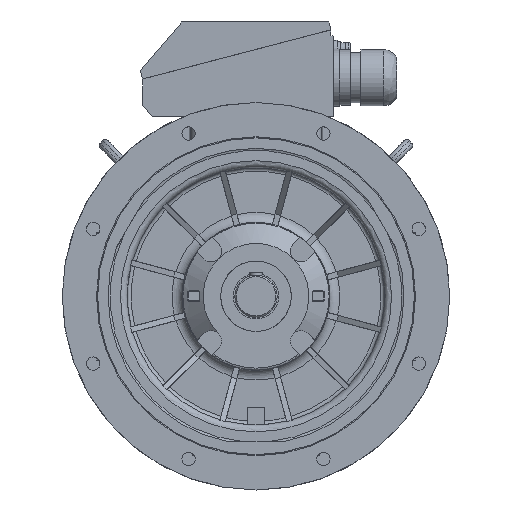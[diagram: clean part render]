
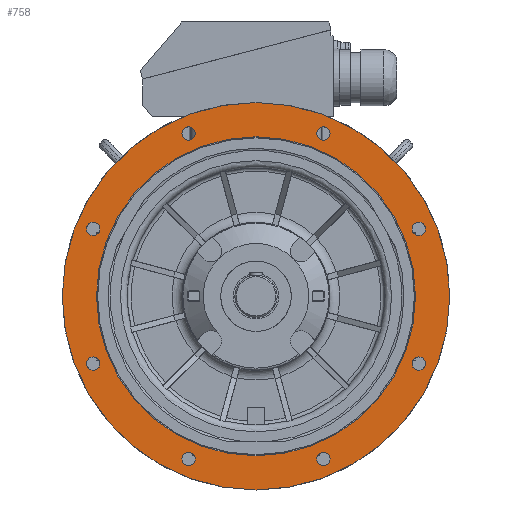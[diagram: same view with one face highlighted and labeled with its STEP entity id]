
A CAD part, front view. The second image highlights one B-rep face of the part: STEP entity #758.
In plain terms, the highlighted planar face has unit normal (0, -1, 0).
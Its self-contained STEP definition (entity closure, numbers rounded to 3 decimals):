
#758 = ADVANCED_FACE( '', ( #2216, #2217, #2218, #2219, #2220, #2221, #2222, #2223, #2224, #2225 ), #2226, .F. );
#2216 = FACE_OUTER_BOUND( '', #3992, .T. );
#2217 = FACE_BOUND( '', #3993, .T. );
#2218 = FACE_BOUND( '', #3994, .T. );
#2219 = FACE_BOUND( '', #3995, .T. );
#2220 = FACE_BOUND( '', #3996, .T. );
#2221 = FACE_BOUND( '', #3997, .T. );
#2222 = FACE_BOUND( '', #3998, .T. );
#2223 = FACE_BOUND( '', #3999, .T. );
#2224 = FACE_BOUND( '', #4000, .T. );
#2225 = FACE_BOUND( '', #4001, .T. );
#2226 = PLANE( '', #4002 );
#3992 = EDGE_LOOP( '', ( #9416 ) );
#3993 = EDGE_LOOP( '', ( #9417 ) );
#3994 = EDGE_LOOP( '', ( #9418 ) );
#3995 = EDGE_LOOP( '', ( #9419 ) );
#3996 = EDGE_LOOP( '', ( #9420 ) );
#3997 = EDGE_LOOP( '', ( #9421 ) );
#3998 = EDGE_LOOP( '', ( #9422 ) );
#3999 = EDGE_LOOP( '', ( #9423 ) );
#4000 = EDGE_LOOP( '', ( #9424 ) );
#4001 = EDGE_LOOP( '', ( #9425 ) );
#4002 = AXIS2_PLACEMENT_3D( '', #9426, #9427, #9428 );
#9416 = ORIENTED_EDGE( '', *, *, #12789, .T. );
#9417 = ORIENTED_EDGE( '', *, *, #12785, .F. );
#9418 = ORIENTED_EDGE( '', *, *, #12786, .F. );
#9419 = ORIENTED_EDGE( '', *, *, #12784, .F. );
#9420 = ORIENTED_EDGE( '', *, *, #12782, .F. );
#9421 = ORIENTED_EDGE( '', *, *, #12790, .F. );
#9422 = ORIENTED_EDGE( '', *, *, #12791, .F. );
#9423 = ORIENTED_EDGE( '', *, *, #12792, .F. );
#9424 = ORIENTED_EDGE( '', *, *, #12793, .F. );
#9425 = ORIENTED_EDGE( '', *, *, #12794, .F. );
#9426 = CARTESIAN_POINT( '', ( 226.4, -89.997, 0. ) );
#9427 = DIRECTION( '', ( 0., 1., 0. ) );
#9428 = DIRECTION( '', ( 1., 0., 0. ) );
#12782 = EDGE_CURVE( '', #16155, #16155, #16156, .T. );
#12784 = EDGE_CURVE( '', #16159, #16159, #16160, .T. );
#12785 = EDGE_CURVE( '', #16161, #16161, #16162, .T. );
#12786 = EDGE_CURVE( '', #16163, #16163, #16164, .T. );
#12789 = EDGE_CURVE( '', #16167, #16167, #16168, .T. );
#12790 = EDGE_CURVE( '', #16169, #16169, #16170, .T. );
#12791 = EDGE_CURVE( '', #16171, #16171, #16172, .T. );
#12792 = EDGE_CURVE( '', #16173, #16173, #16174, .T. );
#12793 = EDGE_CURVE( '', #16175, #16175, #16176, .T. );
#12794 = EDGE_CURVE( '', #16177, #16177, #16178, .T. );
#16155 = VERTEX_POINT( '', #22796 );
#16156 = CIRCLE( '', #22797, 9.5 );
#16159 = VERTEX_POINT( '', #22800 );
#16160 = CIRCLE( '', #22801, 9.5 );
#16161 = VERTEX_POINT( '', #22802 );
#16162 = CIRCLE( '', #22803, 226.4 );
#16163 = VERTEX_POINT( '', #22804 );
#16164 = CIRCLE( '', #22805, 9.5 );
#16167 = VERTEX_POINT( '', #22810 );
#16168 = CIRCLE( '', #22811, 275. );
#16169 = VERTEX_POINT( '', #22812 );
#16170 = CIRCLE( '', #22813, 9.5 );
#16171 = VERTEX_POINT( '', #22814 );
#16172 = CIRCLE( '', #22815, 9.5 );
#16173 = VERTEX_POINT( '', #22816 );
#16174 = CIRCLE( '', #22817, 9.5 );
#16175 = VERTEX_POINT( '', #22818 );
#16176 = CIRCLE( '', #22819, 9.5 );
#16177 = VERTEX_POINT( '', #22820 );
#16178 = CIRCLE( '', #22821, 9.5 );
#22796 = CARTESIAN_POINT( '', ( 95.671, -89.997, -221.47 ) );
#22797 = AXIS2_PLACEMENT_3D( '', #26568, #26569, #26570 );
#22800 = CARTESIAN_POINT( '', ( -95.671, -89.997, -221.47 ) );
#22801 = AXIS2_PLACEMENT_3D( '', #26574, #26575, #26576 );
#22802 = CARTESIAN_POINT( '', ( -226.4, -89.997, 0. ) );
#22803 = AXIS2_PLACEMENT_3D( '', #26577, #26578, #26579 );
#22804 = CARTESIAN_POINT( '', ( -230.97, -89.997, -86.171 ) );
#22805 = AXIS2_PLACEMENT_3D( '', #26580, #26581, #26582 );
#22810 = CARTESIAN_POINT( '', ( -275., -89.997, 0. ) );
#22811 = AXIS2_PLACEMENT_3D( '', #26585, #26586, #26587 );
#22812 = CARTESIAN_POINT( '', ( 230.97, -89.997, -86.171 ) );
#22813 = AXIS2_PLACEMENT_3D( '', #26588, #26589, #26590 );
#22814 = CARTESIAN_POINT( '', ( -95.671, -89.997, 240.47 ) );
#22815 = AXIS2_PLACEMENT_3D( '', #26591, #26592, #26593 );
#22816 = CARTESIAN_POINT( '', ( 95.671, -89.997, 240.47 ) );
#22817 = AXIS2_PLACEMENT_3D( '', #26594, #26595, #26596 );
#22818 = CARTESIAN_POINT( '', ( 230.97, -89.997, 105.171 ) );
#22819 = AXIS2_PLACEMENT_3D( '', #26597, #26598, #26599 );
#22820 = CARTESIAN_POINT( '', ( -230.97, -89.997, 105.171 ) );
#22821 = AXIS2_PLACEMENT_3D( '', #26600, #26601, #26602 );
#26568 = CARTESIAN_POINT( '', ( 95.671, -89.997, -230.97 ) );
#26569 = DIRECTION( '', ( 0., -1., 0. ) );
#26570 = DIRECTION( '', ( 0., 0., 1. ) );
#26574 = CARTESIAN_POINT( '', ( -95.671, -89.997, -230.97 ) );
#26575 = DIRECTION( '', ( 0., -1., 0. ) );
#26576 = DIRECTION( '', ( 0., 0., 1. ) );
#26577 = CARTESIAN_POINT( '', ( 0., -89.997, 0. ) );
#26578 = DIRECTION( '', ( 0., -1., 0. ) );
#26579 = DIRECTION( '', ( -1., 0., 0. ) );
#26580 = CARTESIAN_POINT( '', ( -230.97, -89.997, -95.671 ) );
#26581 = DIRECTION( '', ( 0., -1., 0. ) );
#26582 = DIRECTION( '', ( 0., 0., 1. ) );
#26585 = CARTESIAN_POINT( '', ( 0., -89.997, 0. ) );
#26586 = DIRECTION( '', ( 0., -1., 0. ) );
#26587 = DIRECTION( '', ( -1., 0., 0. ) );
#26588 = CARTESIAN_POINT( '', ( 230.97, -89.997, -95.671 ) );
#26589 = DIRECTION( '', ( 0., -1., 0. ) );
#26590 = DIRECTION( '', ( 0., 0., 1. ) );
#26591 = CARTESIAN_POINT( '', ( -95.671, -89.997, 230.97 ) );
#26592 = DIRECTION( '', ( 0., -1., 0. ) );
#26593 = DIRECTION( '', ( 0., 0., 1. ) );
#26594 = CARTESIAN_POINT( '', ( 95.671, -89.997, 230.97 ) );
#26595 = DIRECTION( '', ( 0., -1., 0. ) );
#26596 = DIRECTION( '', ( 0., 0., 1. ) );
#26597 = CARTESIAN_POINT( '', ( 230.97, -89.997, 95.671 ) );
#26598 = DIRECTION( '', ( 0., -1., 0. ) );
#26599 = DIRECTION( '', ( 0., 0., 1. ) );
#26600 = CARTESIAN_POINT( '', ( -230.97, -89.997, 95.671 ) );
#26601 = DIRECTION( '', ( 0., -1., 0. ) );
#26602 = DIRECTION( '', ( 0., 0., 1. ) );
